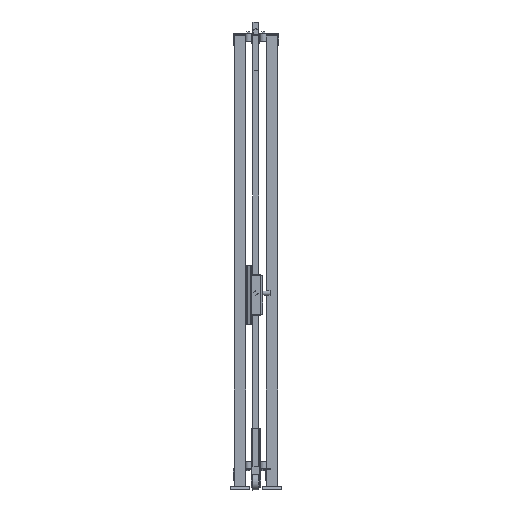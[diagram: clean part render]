
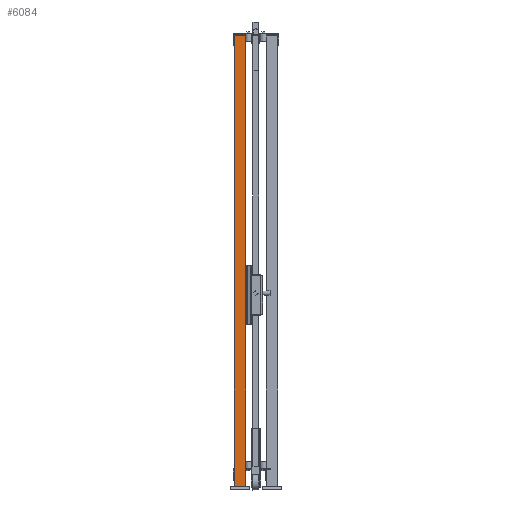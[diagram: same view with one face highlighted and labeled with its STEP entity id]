
A CAD part, left-side view. The second image highlights one B-rep face of the part: STEP entity #6084.
In plain terms, the highlighted planar face has unit normal (-1, 0, 0) as drawn and (0, 1, 0) by its records, which use the part's own axes.
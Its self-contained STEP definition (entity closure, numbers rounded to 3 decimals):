
#572=FACE_OUTER_BOUND('',#1062,.T.);
#1062=EDGE_LOOP('',(#3716,#3717,#3718,#3719));
#1608=VERTEX_POINT('',#13110);
#1609=VERTEX_POINT('',#13112);
#1611=VERTEX_POINT('',#13118);
#1614=VERTEX_POINT('',#13123);
#2414=EDGE_CURVE('',#1608,#1609,#7186,.T.);
#2420=EDGE_CURVE('',#1614,#1611,#7192,.T.);
#2423=EDGE_CURVE('',#1609,#1614,#7195,.T.);
#2424=EDGE_CURVE('',#1608,#1611,#7196,.T.);
#3716=ORIENTED_EDGE('',*,*,#2424,.T.);
#3717=ORIENTED_EDGE('',*,*,#2420,.F.);
#3718=ORIENTED_EDGE('',*,*,#2423,.F.);
#3719=ORIENTED_EDGE('',*,*,#2414,.F.);
#5664=PLANE('',#9182);
#6084=ADVANCED_FACE('',(#572),#5664,.F.);
#7186=LINE('',#13113,#8270);
#7192=LINE('',#13125,#8276);
#7195=LINE('',#13130,#8279);
#7196=LINE('',#13132,#8280);
#8270=VECTOR('',#10273,1.);
#8276=VECTOR('',#10281,1.);
#8279=VECTOR('',#10288,1.);
#8280=VECTOR('',#10291,1.);
#9182=AXIS2_PLACEMENT_3D('',#13131,#10289,#10290);
#10273=DIRECTION('',(-1.,0.,0.));
#10281=DIRECTION('',(1.,0.,0.));
#10288=DIRECTION('',(0.,0.,-1.));
#10289=DIRECTION('center_axis',(0.,-1.,0.));
#10290=DIRECTION('ref_axis',(0.,0.,-1.));
#10291=DIRECTION('',(0.,0.,-1.));
#13110=CARTESIAN_POINT('',(30.,30.,2320.));
#13112=CARTESIAN_POINT('',(-30.,30.,2320.));
#13113=CARTESIAN_POINT('',(0.,30.,2320.));
#13118=CARTESIAN_POINT('',(30.,30.,20.));
#13123=CARTESIAN_POINT('',(-30.,30.,20.));
#13125=CARTESIAN_POINT('',(0.,30.,20.));
#13130=CARTESIAN_POINT('',(-30.,30.,1170.));
#13131=CARTESIAN_POINT('Origin',(0.,30.,
1170.));
#13132=CARTESIAN_POINT('',(30.,30.,1170.));
